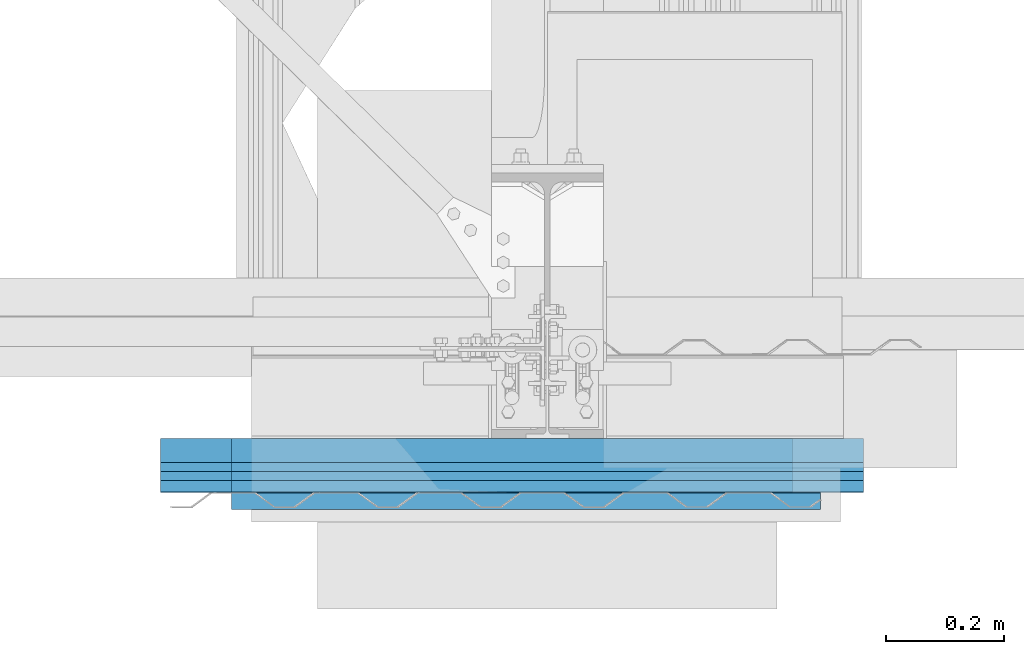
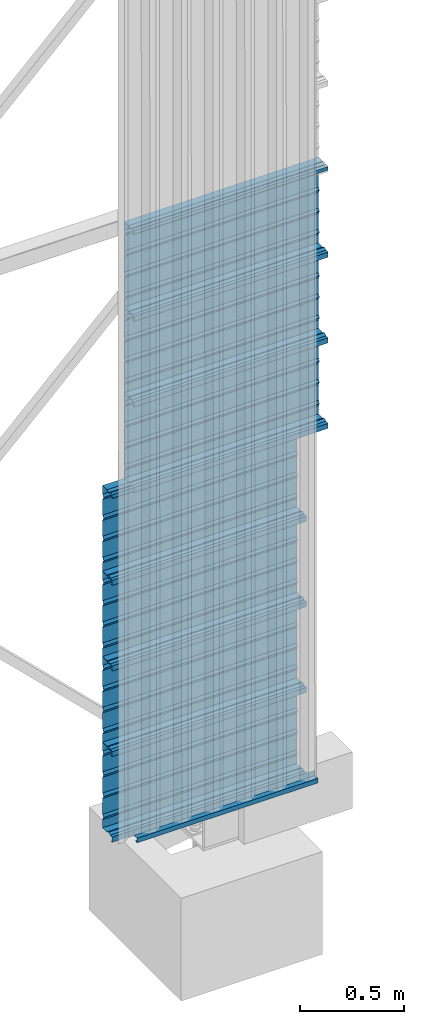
# One storey, part 4 of 21: 8 beams.
"""IFC2X3 building model written with IfcOpenShell, lengths in millimetres."""

from ifc_helpers import new_model, si_unit, frame, origin_with_axes, place, context, project, spatial, faceted_brep, material, type_object, element, save


model = new_model("IFC2X3")

# Units and contexts
model_context_1 = context("Model", 3, precision=1e-05, world=origin_with_axes(), identifier="Body")
model_context_2 = context("Model", 3, precision=1e-05, world=origin_with_axes())
ifc_project = project(units=[si_unit("LENGTHUNIT", "METRE", prefix="MILLI"), si_unit("AREAUNIT", "SQUARE_METRE"), si_unit("VOLUMEUNIT", "CUBIC_METRE"), si_unit("MASSUNIT", "GRAM", prefix="KILO"), si_unit("TIMEUNIT", "SECOND"), si_unit("PLANEANGLEUNIT", "RADIAN"), si_unit("SOLIDANGLEUNIT", "STERADIAN"), si_unit("THERMODYNAMICTEMPERATUREUNIT", "DEGREE_CELSIUS"), si_unit("LUMINOUSINTENSITYUNIT", "LUMEN")], contexts=[model_context_1, model_context_2])

# Site, building, storey
site_placement = place(None, origin_with_axes())
site = spatial("IfcSite", under=ifc_project, at=site_placement, Name="Undefined", CompositionType="ELEMENT")
building_placement = place(site_placement, origin_with_axes())
building = spatial("IfcBuilding", under=site, at=building_placement, Name="Undefined", CompositionType="ELEMENT")
storey_placement = place(building_placement, origin_with_axes())
storey = spatial("IfcBuildingStorey", under=building, at=storey_placement, Name="Undefined", CompositionType="ELEMENT")

# Beams
ifc_material = material(Name="STEEL/S235JR")
beam_type_1 = type_object("IfcBeamType", Name="0.6*98.3", PredefinedType="NOTDEFINED")
beam_1_placement = place(storey_placement, frame((-36.5, -317.21933, 30.997056), z_axis=(-1.0, 0.0, 4.8148249e-35), x_axis=(1.2899234e-13, 3.1900003e-05, -1.0)))
element("IfcBeam", 1, at=beam_1_placement, inside=storey, type_object=beam_type_1, material=ifc_material, Name="bavette", ObjectType="0.6*98.3", context=model_context_1, shape_type="Brep", body=[
    faceted_brep([(-1.1373658e-10, -0.315, -500.0), (1.1384316e-10, -0.315, 500.0), (1.1374368e-10, 0.315, 500.0), (-1.1383605e-10, 0.315, -500.0), (31.373844, 0.315, 500.0), (31.373844, 0.315, -500.0), (32.003868, -0.315, 500.0), (32.003868, -0.315, -500.0), (31.372757, 28.416443, 500.0), (31.372757, 28.416443, -500.0), (32.002781, 27.786443, 500.0), (32.002781, 27.786443, -500.0), (57.809042, 28.416443, 500.0), (57.809042, 28.416443, -500.0), (57.002781, 27.786443, 500.0), (57.002781, 27.786443, -500.0), (54.112692, 13.583386, 500.0), (54.112692, 13.583386, -500.0), (53.501387, 13.735721, 500.0), (53.501387, 13.735721, -500.0)], [[[0, 1, 2, 3]], [[3, 2, 4, 5]], [[2, 1, 6, 4]], [[1, 0, 7, 6]], [[0, 3, 5, 7]], [[5, 4, 8, 9]], [[4, 6, 10, 8]], [[6, 7, 11, 10]], [[7, 5, 9, 11]], [[9, 8, 12, 13]], [[8, 10, 14, 12]], [[10, 11, 15, 14]], [[11, 9, 13, 15]], [[13, 12, 16, 17]], [[12, 14, 18, 16]], [[14, 15, 19, 18]], [[15, 13, 17, 19]], [[18, 19, 17, 16]]]),
])
beam_type_2 = type_object("IfcBeamType", Name="ARCLAD_FPB_MURESCO_1.500.90_BS_75", PredefinedType="NOTDEFINED")
beam_2_placement = place(storey_placement, frame((-656.49991, -270.9088, 279.85113), z_axis=(4.4408925e-19, 1.0, 3.1900003e-05), x_axis=(1.0, 0.0, 0.0)))
element("IfcBeam", 2, at=beam_2_placement, inside=storey, type_object=beam_type_2, material=ifc_material, Name="bac", ObjectType="ARCLAD_FPB_MURESCO_1.500.90_BS_75", context=model_context_1, shape_type="Brep", body=[
    faceted_brep([(0.0, 278.0, -36.0), (0.0, 278.0, -45.0), (1073.0, 278.0, -45.0), (1073.0, 278.0, -36.0), (0.0, 250.0, -45.0), (1073.0, 250.0, -45.0), (0.0, 250.0, -26.110001), (1073.0, 250.0, -26.110001), (0.0, 242.17, -10.67), (1073.0, 242.17, -10.67), (0.0, 250.0, 4.7800002), (1073.0, 250.0, 4.7800002), (0.0, 250.0, 46.0), (1073.0, 250.0, 46.0), (0.0, 200.44, 46.0), (1073.0, 200.44, 46.0), (0.0, 185.0, 38.169998), (1073.0, 185.0, 38.169998), (0.0, 169.56, 46.0), (1073.0, 169.56, 46.0), (0.0, 77.110001, 46.0), (1073.0, 77.110001, 46.0), (0.0, 61.669998, 38.169998), (1073.0, 61.669998, 38.169998), (0.0, 46.220001, 46.0), (1073.0, 46.220001, 46.0), (0.0, -46.220001, 46.0), (1073.0, -46.220001, 46.0), (0.0, -61.669998, 38.169998), (1073.0, -61.669998, 38.169998), (0.0, -77.110001, 46.0), (1073.0, -77.110001, 46.0), (0.0, -169.56, 46.0), (1073.0, -169.56, 46.0), (0.0, -185.0, 38.169998), (1073.0, -185.0, 38.169998), (0.0, -200.44, 46.0), (1073.0, -200.44, 46.0), (0.0, -250.0, 46.0), (1073.0, -250.0, 46.0), (0.0, -250.0, 4.7800002), (1073.0, -250.0, 4.7800002), (0.0, -242.17, -10.67), (1073.0, -242.17, -10.67), (0.0, -250.0, -26.110001), (1073.0, -250.0, -26.110001), (0.0, -250.0, -45.0), (1073.0, -250.0, -45.0), (0.0, -230.0, -45.0), (1073.0, -230.0, -45.0), (0.0, -225.35001, -41.540001), (1073.0, -225.35001, -41.540001), (0.0, -225.95, -40.740002), (1073.0, -225.95, -40.740002), (0.0, -230.33, -44.0), (1073.0, -230.33, -44.0), (0.0, -249.0, -44.0), (1073.0, -249.0, -44.0), (0.0, -249.0, -26.35), (1073.0, -249.0, -26.35), (0.0, -241.05, -10.67), (1073.0, -241.05, -10.67), (0.0, -249.0, 5.02), (1073.0, -249.0, 5.02), (0.0, -249.0, 45.0), (1073.0, -249.0, 45.0), (0.0, -200.67999, 45.0), (1073.0, -200.67999, 45.0), (0.0, -185.0, 37.049999), (1073.0, -185.0, 37.049999), (0.0, -169.32001, 45.0), (1073.0, -169.32001, 45.0), (0.0, -77.349998, 45.0), (1073.0, -77.349998, 45.0), (0.0, -61.669998, 37.049999), (1073.0, -61.669998, 37.049999), (0.0, -45.98, 45.0), (1073.0, -45.98, 45.0), (0.0, 45.98, 45.0), (1073.0, 45.98, 45.0), (0.0, 61.669998, 37.049999), (1073.0, 61.669998, 37.049999), (0.0, 77.349998, 45.0), (1073.0, 77.349998, 45.0), (0.0, 169.32001, 45.0), (1073.0, 169.32001, 45.0), (0.0, 185.0, 37.049999), (1073.0, 185.0, 37.049999), (0.0, 200.67999, 45.0), (1073.0, 200.67999, 45.0), (0.0, 249.0, 45.0), (1073.0, 249.0, 45.0), (0.0, 249.0, 5.02), (1073.0, 249.0, 5.02), (0.0, 241.05, -10.67), (1073.0, 241.05, -10.67), (0.0, 249.0, -26.35), (1073.0, 249.0, -26.35), (0.0, 249.0, -46.0), (1073.0, 249.0, -46.0), (0.0, 279.0, -46.0), (1073.0, 279.0, -46.0), (0.0, 279.0, -36.0), (1073.0, 279.0, -36.0)], [[[0, 1, 2, 3]], [[1, 4, 5, 2]], [[4, 6, 7, 5]], [[6, 8, 9, 7]], [[8, 10, 11, 9]], [[10, 12, 13, 11]], [[12, 14, 15, 13]], [[14, 16, 17, 15]], [[16, 18, 19, 17]], [[18, 20, 21, 19]], [[20, 22, 23, 21]], [[22, 24, 25, 23]], [[24, 26, 27, 25]], [[26, 28, 29, 27]], [[28, 30, 31, 29]], [[30, 32, 33, 31]], [[32, 34, 35, 33]], [[34, 36, 37, 35]], [[36, 38, 39, 37]], [[38, 40, 41, 39]], [[40, 42, 43, 41]], [[42, 44, 45, 43]], [[44, 46, 47, 45]], [[46, 48, 49, 47]], [[48, 50, 51, 49]], [[50, 52, 53, 51]], [[52, 54, 55, 53]], [[54, 56, 57, 55]], [[56, 58, 59, 57]], [[58, 60, 61, 59]], [[60, 62, 63, 61]], [[62, 64, 65, 63]], [[64, 66, 67, 65]], [[66, 68, 69, 67]], [[68, 70, 71, 69]], [[70, 72, 73, 71]], [[72, 74, 75, 73]], [[74, 76, 77, 75]], [[76, 78, 79, 77]], [[78, 80, 81, 79]], [[80, 82, 83, 81]], [[82, 84, 85, 83]], [[84, 86, 87, 85]], [[86, 88, 89, 87]], [[88, 90, 91, 89]], [[90, 92, 93, 91]], [[92, 94, 95, 93]], [[94, 96, 97, 95]], [[96, 98, 99, 97]], [[98, 100, 101, 99]], [[100, 102, 103, 101]], [[102, 0, 3, 103]], [[5, 7, 9, 11, 13, 15, 17, 19, 21, 23, 25, 27, 29, 31, 33, 35, 37, 39, 41, 43, 45, 47, 49, 51, 53, 55, 57, 59, 61, 63, 65, 67, 69, 71, 73, 75, 77, 79, 81, 83, 85, 87, 89, 91, 93, 95, 97, 99, 101, 103, 3, 2]], [[102, 100, 98, 96, 94, 92, 90, 88, 86, 84, 82, 80, 78, 76, 74, 72, 70, 68, 66, 64, 62, 60, 58, 56, 54, 52, 50, 48, 46, 44, 42, 40, 38, 36, 34, 32, 30, 28, 26, 24, 22, 20, 18, 16, 14, 12, 10, 8, 6, 4, 1, 0]]]),
])
beam_3_placement = place(storey_placement, frame((-656.49991, -270.9088, 779.85113), z_axis=(4.4408925e-19, 1.0, 3.1900003e-05), x_axis=(1.0, 0.0, 0.0)))
element("IfcBeam", 3, at=beam_3_placement, inside=storey, type_object=beam_type_2, material=ifc_material, Name="bac", ObjectType="ARCLAD_FPB_MURESCO_1.500.90_BS_75", context=model_context_1, shape_type="Brep", body=[
    faceted_brep([(0.0, 278.0, -36.0), (0.0, 278.0, -45.0), (1073.0, 278.0, -45.0), (1073.0, 278.0, -36.0), (0.0, 250.0, -45.0), (1073.0, 250.0, -45.0), (0.0, 250.0, -26.110001), (1073.0, 250.0, -26.110001), (0.0, 242.17, -10.67), (1073.0, 242.17, -10.67), (0.0, 250.0, 4.7800002), (1073.0, 250.0, 4.7800002), (0.0, 250.0, 46.0), (1073.0, 250.0, 46.0), (0.0, 200.44, 46.0), (1073.0, 200.44, 46.0), (0.0, 185.0, 38.169998), (1073.0, 185.0, 38.169998), (0.0, 169.56, 46.0), (1073.0, 169.56, 46.0), (0.0, 77.110001, 46.0), (1073.0, 77.110001, 46.0), (0.0, 61.669998, 38.169998), (1073.0, 61.669998, 38.169998), (0.0, 46.220001, 46.0), (1073.0, 46.220001, 46.0), (0.0, -46.220001, 46.0), (1073.0, -46.220001, 46.0), (0.0, -61.669998, 38.169998), (1073.0, -61.669998, 38.169998), (0.0, -77.110001, 46.0), (1073.0, -77.110001, 46.0), (0.0, -169.56, 46.0), (1073.0, -169.56, 46.0), (0.0, -185.0, 38.169998), (1073.0, -185.0, 38.169998), (0.0, -200.44, 46.0), (1073.0, -200.44, 46.0), (0.0, -250.0, 46.0), (1073.0, -250.0, 46.0), (0.0, -250.0, 4.7800002), (1073.0, -250.0, 4.7800002), (0.0, -242.17, -10.67), (1073.0, -242.17, -10.67), (0.0, -250.0, -26.110001), (1073.0, -250.0, -26.110001), (0.0, -250.0, -45.0), (1073.0, -250.0, -45.0), (0.0, -230.0, -45.0), (1073.0, -230.0, -45.0), (0.0, -225.35001, -41.540001), (1073.0, -225.35001, -41.540001), (0.0, -225.95, -40.740002), (1073.0, -225.95, -40.740002), (0.0, -230.33, -44.0), (1073.0, -230.33, -44.0), (0.0, -249.0, -44.0), (1073.0, -249.0, -44.0), (0.0, -249.0, -26.35), (1073.0, -249.0, -26.35), (0.0, -241.05, -10.67), (1073.0, -241.05, -10.67), (0.0, -249.0, 5.02), (1073.0, -249.0, 5.02), (0.0, -249.0, 45.0), (1073.0, -249.0, 45.0), (0.0, -200.67999, 45.0), (1073.0, -200.67999, 45.0), (0.0, -185.0, 37.049999), (1073.0, -185.0, 37.049999), (0.0, -169.32001, 45.0), (1073.0, -169.32001, 45.0), (0.0, -77.349998, 45.0), (1073.0, -77.349998, 45.0), (0.0, -61.669998, 37.049999), (1073.0, -61.669998, 37.049999), (0.0, -45.98, 45.0), (1073.0, -45.98, 45.0), (0.0, 45.98, 45.0), (1073.0, 45.98, 45.0), (0.0, 61.669998, 37.049999), (1073.0, 61.669998, 37.049999), (0.0, 77.349998, 45.0), (1073.0, 77.349998, 45.0), (0.0, 169.32001, 45.0), (1073.0, 169.32001, 45.0), (0.0, 185.0, 37.049999), (1073.0, 185.0, 37.049999), (0.0, 200.67999, 45.0), (1073.0, 200.67999, 45.0), (0.0, 249.0, 45.0), (1073.0, 249.0, 45.0), (0.0, 249.0, 5.02), (1073.0, 249.0, 5.02), (0.0, 241.05, -10.67), (1073.0, 241.05, -10.67), (0.0, 249.0, -26.35), (1073.0, 249.0, -26.35), (0.0, 249.0, -46.0), (1073.0, 249.0, -46.0), (0.0, 279.0, -46.0), (1073.0, 279.0, -46.0), (0.0, 279.0, -36.0), (1073.0, 279.0, -36.0)], [[[0, 1, 2, 3]], [[1, 4, 5, 2]], [[4, 6, 7, 5]], [[6, 8, 9, 7]], [[8, 10, 11, 9]], [[10, 12, 13, 11]], [[12, 14, 15, 13]], [[14, 16, 17, 15]], [[16, 18, 19, 17]], [[18, 20, 21, 19]], [[20, 22, 23, 21]], [[22, 24, 25, 23]], [[24, 26, 27, 25]], [[26, 28, 29, 27]], [[28, 30, 31, 29]], [[30, 32, 33, 31]], [[32, 34, 35, 33]], [[34, 36, 37, 35]], [[36, 38, 39, 37]], [[38, 40, 41, 39]], [[40, 42, 43, 41]], [[42, 44, 45, 43]], [[44, 46, 47, 45]], [[46, 48, 49, 47]], [[48, 50, 51, 49]], [[50, 52, 53, 51]], [[52, 54, 55, 53]], [[54, 56, 57, 55]], [[56, 58, 59, 57]], [[58, 60, 61, 59]], [[60, 62, 63, 61]], [[62, 64, 65, 63]], [[64, 66, 67, 65]], [[66, 68, 69, 67]], [[68, 70, 71, 69]], [[70, 72, 73, 71]], [[72, 74, 75, 73]], [[74, 76, 77, 75]], [[76, 78, 79, 77]], [[78, 80, 81, 79]], [[80, 82, 83, 81]], [[82, 84, 85, 83]], [[84, 86, 87, 85]], [[86, 88, 89, 87]], [[88, 90, 91, 89]], [[90, 92, 93, 91]], [[92, 94, 95, 93]], [[94, 96, 97, 95]], [[96, 98, 99, 97]], [[98, 100, 101, 99]], [[100, 102, 103, 101]], [[102, 0, 3, 103]], [[5, 7, 9, 11, 13, 15, 17, 19, 21, 23, 25, 27, 29, 31, 33, 35, 37, 39, 41, 43, 45, 47, 49, 51, 53, 55, 57, 59, 61, 63, 65, 67, 69, 71, 73, 75, 77, 79, 81, 83, 85, 87, 89, 91, 93, 95, 97, 99, 101, 103, 3, 2]], [[102, 100, 98, 96, 94, 92, 90, 88, 86, 84, 82, 80, 78, 76, 74, 72, 70, 68, 66, 64, 62, 60, 58, 56, 54, 52, 50, 48, 46, 44, 42, 40, 38, 36, 34, 32, 30, 28, 26, 24, 22, 20, 18, 16, 14, 12, 10, 8, 6, 4, 1, 0]]]),
])
beam_4_placement = place(storey_placement, frame((-656.49991, -270.9088, 1279.8511), z_axis=(4.4408925e-19, 1.0, 3.1900003e-05), x_axis=(1.0, 0.0, 0.0)))
element("IfcBeam", 4, at=beam_4_placement, inside=storey, type_object=beam_type_2, material=ifc_material, Name="bac", ObjectType="ARCLAD_FPB_MURESCO_1.500.90_BS_75", context=model_context_1, shape_type="Brep", body=[
    faceted_brep([(0.0, 278.0, -36.0), (0.0, 278.0, -45.0), (1073.0, 278.0, -45.0), (1073.0, 278.0, -36.0), (0.0, 250.0, -45.0), (1073.0, 250.0, -45.0), (0.0, 250.0, -26.110001), (1073.0, 250.0, -26.110001), (0.0, 242.17, -10.67), (1073.0, 242.17, -10.67), (0.0, 250.0, 4.7800002), (1073.0, 250.0, 4.7800002), (0.0, 250.0, 46.0), (1073.0, 250.0, 46.0), (0.0, 200.44, 46.0), (1073.0, 200.44, 46.0), (0.0, 185.0, 38.169998), (1073.0, 185.0, 38.169998), (0.0, 169.56, 46.0), (1073.0, 169.56, 46.0), (0.0, 77.110001, 46.0), (1073.0, 77.110001, 46.0), (0.0, 61.669998, 38.169998), (1073.0, 61.669998, 38.169998), (0.0, 46.220001, 46.0), (1073.0, 46.220001, 46.0), (0.0, -46.220001, 46.0), (1073.0, -46.220001, 46.0), (0.0, -61.669998, 38.169998), (1073.0, -61.669998, 38.169998), (0.0, -77.110001, 46.0), (1073.0, -77.110001, 46.0), (0.0, -169.56, 46.0), (1073.0, -169.56, 46.0), (0.0, -185.0, 38.169998), (1073.0, -185.0, 38.169998), (0.0, -200.44, 46.0), (1073.0, -200.44, 46.0), (0.0, -250.0, 46.0), (1073.0, -250.0, 46.0), (0.0, -250.0, 4.7800002), (1073.0, -250.0, 4.7800002), (0.0, -242.17, -10.67), (1073.0, -242.17, -10.67), (0.0, -250.0, -26.110001), (1073.0, -250.0, -26.110001), (0.0, -250.0, -45.0), (1073.0, -250.0, -45.0), (0.0, -230.0, -45.0), (1073.0, -230.0, -45.0), (0.0, -225.35001, -41.540001), (1073.0, -225.35001, -41.540001), (0.0, -225.95, -40.740002), (1073.0, -225.95, -40.740002), (0.0, -230.33, -44.0), (1073.0, -230.33, -44.0), (0.0, -249.0, -44.0), (1073.0, -249.0, -44.0), (0.0, -249.0, -26.35), (1073.0, -249.0, -26.35), (0.0, -241.05, -10.67), (1073.0, -241.05, -10.67), (0.0, -249.0, 5.02), (1073.0, -249.0, 5.02), (0.0, -249.0, 45.0), (1073.0, -249.0, 45.0), (0.0, -200.67999, 45.0), (1073.0, -200.67999, 45.0), (0.0, -185.0, 37.049999), (1073.0, -185.0, 37.049999), (0.0, -169.32001, 45.0), (1073.0, -169.32001, 45.0), (0.0, -77.349998, 45.0), (1073.0, -77.349998, 45.0), (0.0, -61.669998, 37.049999), (1073.0, -61.669998, 37.049999), (0.0, -45.98, 45.0), (1073.0, -45.98, 45.0), (0.0, 45.98, 45.0), (1073.0, 45.98, 45.0), (0.0, 61.669998, 37.049999), (1073.0, 61.669998, 37.049999), (0.0, 77.349998, 45.0), (1073.0, 77.349998, 45.0), (0.0, 169.32001, 45.0), (1073.0, 169.32001, 45.0), (0.0, 185.0, 37.049999), (1073.0, 185.0, 37.049999), (0.0, 200.67999, 45.0), (1073.0, 200.67999, 45.0), (0.0, 249.0, 45.0), (1073.0, 249.0, 45.0), (0.0, 249.0, 5.02), (1073.0, 249.0, 5.02), (0.0, 241.05, -10.67), (1073.0, 241.05, -10.67), (0.0, 249.0, -26.35), (1073.0, 249.0, -26.35), (0.0, 249.0, -46.0), (1073.0, 249.0, -46.0), (0.0, 279.0, -46.0), (1073.0, 279.0, -46.0), (0.0, 279.0, -36.0), (1073.0, 279.0, -36.0)], [[[0, 1, 2, 3]], [[1, 4, 5, 2]], [[4, 6, 7, 5]], [[6, 8, 9, 7]], [[8, 10, 11, 9]], [[10, 12, 13, 11]], [[12, 14, 15, 13]], [[14, 16, 17, 15]], [[16, 18, 19, 17]], [[18, 20, 21, 19]], [[20, 22, 23, 21]], [[22, 24, 25, 23]], [[24, 26, 27, 25]], [[26, 28, 29, 27]], [[28, 30, 31, 29]], [[30, 32, 33, 31]], [[32, 34, 35, 33]], [[34, 36, 37, 35]], [[36, 38, 39, 37]], [[38, 40, 41, 39]], [[40, 42, 43, 41]], [[42, 44, 45, 43]], [[44, 46, 47, 45]], [[46, 48, 49, 47]], [[48, 50, 51, 49]], [[50, 52, 53, 51]], [[52, 54, 55, 53]], [[54, 56, 57, 55]], [[56, 58, 59, 57]], [[58, 60, 61, 59]], [[60, 62, 63, 61]], [[62, 64, 65, 63]], [[64, 66, 67, 65]], [[66, 68, 69, 67]], [[68, 70, 71, 69]], [[70, 72, 73, 71]], [[72, 74, 75, 73]], [[74, 76, 77, 75]], [[76, 78, 79, 77]], [[78, 80, 81, 79]], [[80, 82, 83, 81]], [[82, 84, 85, 83]], [[84, 86, 87, 85]], [[86, 88, 89, 87]], [[88, 90, 91, 89]], [[90, 92, 93, 91]], [[92, 94, 95, 93]], [[94, 96, 97, 95]], [[96, 98, 99, 97]], [[98, 100, 101, 99]], [[100, 102, 103, 101]], [[102, 0, 3, 103]], [[5, 7, 9, 11, 13, 15, 17, 19, 21, 23, 25, 27, 29, 31, 33, 35, 37, 39, 41, 43, 45, 47, 49, 51, 53, 55, 57, 59, 61, 63, 65, 67, 69, 71, 73, 75, 77, 79, 81, 83, 85, 87, 89, 91, 93, 95, 97, 99, 101, 103, 3, 2]], [[102, 100, 98, 96, 94, 92, 90, 88, 86, 84, 82, 80, 78, 76, 74, 72, 70, 68, 66, 64, 62, 60, 58, 56, 54, 52, 50, 48, 46, 44, 42, 40, 38, 36, 34, 32, 30, 28, 26, 24, 22, 20, 18, 16, 14, 12, 10, 8, 6, 4, 1, 0]]]),
])
beam_5_placement = place(storey_placement, frame((-656.49991, -270.9088, 1779.8511), z_axis=(4.4408925e-19, 1.0, 3.1900003e-05), x_axis=(1.0, 0.0, 0.0)))
element("IfcBeam", 5, at=beam_5_placement, inside=storey, type_object=beam_type_2, material=ifc_material, Name="bac", ObjectType="ARCLAD_FPB_MURESCO_1.500.90_BS_75", context=model_context_1, shape_type="Brep", body=[
    faceted_brep([(0.0, 278.0, -36.0), (0.0, 278.0, -45.0), (1073.0, 278.0, -45.0), (1073.0, 278.0, -36.0), (0.0, 250.0, -45.0), (1073.0, 250.0, -45.0), (0.0, 250.0, -26.110001), (1073.0, 250.0, -26.110001), (0.0, 242.17, -10.67), (1073.0, 242.17, -10.67), (0.0, 250.0, 4.7800002), (1073.0, 250.0, 4.7800002), (0.0, 250.0, 46.0), (1073.0, 250.0, 46.0), (0.0, 200.44, 46.0), (1073.0, 200.44, 46.0), (0.0, 185.0, 38.169998), (1073.0, 185.0, 38.169998), (0.0, 169.56, 46.0), (1073.0, 169.56, 46.0), (0.0, 77.110001, 46.0), (1073.0, 77.110001, 46.0), (0.0, 61.669998, 38.169998), (1073.0, 61.669998, 38.169998), (0.0, 46.220001, 46.0), (1073.0, 46.220001, 46.0), (0.0, -46.220001, 46.0), (1073.0, -46.220001, 46.0), (0.0, -61.669998, 38.169998), (1073.0, -61.669998, 38.169998), (0.0, -77.110001, 46.0), (1073.0, -77.110001, 46.0), (0.0, -169.56, 46.0), (1073.0, -169.56, 46.0), (0.0, -185.0, 38.169998), (1073.0, -185.0, 38.169998), (0.0, -200.44, 46.0), (1073.0, -200.44, 46.0), (0.0, -250.0, 46.0), (1073.0, -250.0, 46.0), (0.0, -250.0, 4.7800002), (1073.0, -250.0, 4.7800002), (0.0, -242.17, -10.67), (1073.0, -242.17, -10.67), (0.0, -250.0, -26.110001), (1073.0, -250.0, -26.110001), (0.0, -250.0, -45.0), (1073.0, -250.0, -45.0), (0.0, -230.0, -45.0), (1073.0, -230.0, -45.0), (0.0, -225.35001, -41.540001), (1073.0, -225.35001, -41.540001), (0.0, -225.95, -40.740002), (1073.0, -225.95, -40.740002), (0.0, -230.33, -44.0), (1073.0, -230.33, -44.0), (0.0, -249.0, -44.0), (1073.0, -249.0, -44.0), (0.0, -249.0, -26.35), (1073.0, -249.0, -26.35), (0.0, -241.05, -10.67), (1073.0, -241.05, -10.67), (0.0, -249.0, 5.02), (1073.0, -249.0, 5.02), (0.0, -249.0, 45.0), (1073.0, -249.0, 45.0), (0.0, -200.67999, 45.0), (1073.0, -200.67999, 45.0), (0.0, -185.0, 37.049999), (1073.0, -185.0, 37.049999), (0.0, -169.32001, 45.0), (1073.0, -169.32001, 45.0), (0.0, -77.349998, 45.0), (1073.0, -77.349998, 45.0), (0.0, -61.669998, 37.049999), (1073.0, -61.669998, 37.049999), (0.0, -45.98, 45.0), (1073.0, -45.98, 45.0), (0.0, 45.98, 45.0), (1073.0, 45.98, 45.0), (0.0, 61.669998, 37.049999), (1073.0, 61.669998, 37.049999), (0.0, 77.349998, 45.0), (1073.0, 77.349998, 45.0), (0.0, 169.32001, 45.0), (1073.0, 169.32001, 45.0), (0.0, 185.0, 37.049999), (1073.0, 185.0, 37.049999), (0.0, 200.67999, 45.0), (1073.0, 200.67999, 45.0), (0.0, 249.0, 45.0), (1073.0, 249.0, 45.0), (0.0, 249.0, 5.02), (1073.0, 249.0, 5.02), (0.0, 241.05, -10.67), (1073.0, 241.05, -10.67), (0.0, 249.0, -26.35), (1073.0, 249.0, -26.35), (0.0, 249.0, -46.0), (1073.0, 249.0, -46.0), (0.0, 279.0, -46.0), (1073.0, 279.0, -46.0), (0.0, 279.0, -36.0), (1073.0, 279.0, -36.0)], [[[0, 1, 2, 3]], [[1, 4, 5, 2]], [[4, 6, 7, 5]], [[6, 8, 9, 7]], [[8, 10, 11, 9]], [[10, 12, 13, 11]], [[12, 14, 15, 13]], [[14, 16, 17, 15]], [[16, 18, 19, 17]], [[18, 20, 21, 19]], [[20, 22, 23, 21]], [[22, 24, 25, 23]], [[24, 26, 27, 25]], [[26, 28, 29, 27]], [[28, 30, 31, 29]], [[30, 32, 33, 31]], [[32, 34, 35, 33]], [[34, 36, 37, 35]], [[36, 38, 39, 37]], [[38, 40, 41, 39]], [[40, 42, 43, 41]], [[42, 44, 45, 43]], [[44, 46, 47, 45]], [[46, 48, 49, 47]], [[48, 50, 51, 49]], [[50, 52, 53, 51]], [[52, 54, 55, 53]], [[54, 56, 57, 55]], [[56, 58, 59, 57]], [[58, 60, 61, 59]], [[60, 62, 63, 61]], [[62, 64, 65, 63]], [[64, 66, 67, 65]], [[66, 68, 69, 67]], [[68, 70, 71, 69]], [[70, 72, 73, 71]], [[72, 74, 75, 73]], [[74, 76, 77, 75]], [[76, 78, 79, 77]], [[78, 80, 81, 79]], [[80, 82, 83, 81]], [[82, 84, 85, 83]], [[84, 86, 87, 85]], [[86, 88, 89, 87]], [[88, 90, 91, 89]], [[90, 92, 93, 91]], [[92, 94, 95, 93]], [[94, 96, 97, 95]], [[96, 98, 99, 97]], [[98, 100, 101, 99]], [[100, 102, 103, 101]], [[102, 0, 3, 103]], [[5, 7, 9, 11, 13, 15, 17, 19, 21, 23, 25, 27, 29, 31, 33, 35, 37, 39, 41, 43, 45, 47, 49, 51, 53, 55, 57, 59, 61, 63, 65, 67, 69, 71, 73, 75, 77, 79, 81, 83, 85, 87, 89, 91, 93, 95, 97, 99, 101, 103, 3, 2]], [[102, 100, 98, 96, 94, 92, 90, 88, 86, 84, 82, 80, 78, 76, 74, 72, 70, 68, 66, 64, 62, 60, 58, 56, 54, 52, 50, 48, 46, 44, 42, 40, 38, 36, 34, 32, 30, 28, 26, 24, 22, 20, 18, 16, 14, 12, 10, 8, 6, 4, 1, 0]]]),
])
beam_6_placement = place(storey_placement, frame((-536.5, -270.91227, 2279.9985), z_axis=(4.4408925e-19, 1.0, 3.1900003e-05), x_axis=(1.0, 0.0, 0.0)))
element("IfcBeam", 6, at=beam_6_placement, inside=storey, type_object=beam_type_2, material=ifc_material, Name="bac", ObjectType="ARCLAD_FPB_MURESCO_1.500.90_BS_75", context=model_context_1, shape_type="Brep", body=[
    faceted_brep([(0.0, 278.0, -36.0), (0.0, 278.0, -45.0), (1073.0, 278.0, -45.0), (1073.0, 278.0, -36.0), (0.0, 250.0, -45.0), (1073.0, 250.0, -45.0), (0.0, 250.0, -26.110001), (1073.0, 250.0, -26.110001), (0.0, 242.17, -10.67), (1073.0, 242.17, -10.67), (0.0, 250.0, 4.7800002), (1073.0, 250.0, 4.7800002), (0.0, 250.0, 46.0), (1073.0, 250.0, 46.0), (0.0, 200.44, 46.0), (1073.0, 200.44, 46.0), (0.0, 185.0, 38.169998), (1073.0, 185.0, 38.169998), (0.0, 169.56, 46.0), (1073.0, 169.56, 46.0), (0.0, 77.110001, 46.0), (1073.0, 77.110001, 46.0), (0.0, 61.669998, 38.169998), (1073.0, 61.669998, 38.169998), (0.0, 46.220001, 46.0), (1073.0, 46.220001, 46.0), (0.0, -46.220001, 46.0), (1073.0, -46.220001, 46.0), (0.0, -61.669998, 38.169998), (1073.0, -61.669998, 38.169998), (0.0, -77.110001, 46.0), (1073.0, -77.110001, 46.0), (0.0, -169.56, 46.0), (1073.0, -169.56, 46.0), (0.0, -185.0, 38.169998), (1073.0, -185.0, 38.169998), (0.0, -200.44, 46.0), (1073.0, -200.44, 46.0), (0.0, -250.0, 46.0), (1073.0, -250.0, 46.0), (0.0, -250.0, 4.7800002), (1073.0, -250.0, 4.7800002), (0.0, -242.17, -10.67), (1073.0, -242.17, -10.67), (0.0, -250.0, -26.110001), (1073.0, -250.0, -26.110001), (0.0, -250.0, -45.0), (1073.0, -250.0, -45.0), (0.0, -230.0, -45.0), (1073.0, -230.0, -45.0), (0.0, -225.35001, -41.540001), (1073.0, -225.35001, -41.540001), (0.0, -225.95, -40.740002), (1073.0, -225.95, -40.740002), (0.0, -230.33, -44.0), (1073.0, -230.33, -44.0), (0.0, -249.0, -44.0), (1073.0, -249.0, -44.0), (0.0, -249.0, -26.35), (1073.0, -249.0, -26.35), (0.0, -241.05, -10.67), (1073.0, -241.05, -10.67), (0.0, -249.0, 5.02), (1073.0, -249.0, 5.02), (0.0, -249.0, 45.0), (1073.0, -249.0, 45.0), (0.0, -200.67999, 45.0), (1073.0, -200.67999, 45.0), (0.0, -185.0, 37.049999), (1073.0, -185.0, 37.049999), (0.0, -169.32001, 45.0), (1073.0, -169.32001, 45.0), (0.0, -77.349998, 45.0), (1073.0, -77.349998, 45.0), (0.0, -61.669998, 37.049999), (1073.0, -61.669998, 37.049999), (0.0, -45.98, 45.0), (1073.0, -45.98, 45.0), (0.0, 45.98, 45.0), (1073.0, 45.98, 45.0), (0.0, 61.669998, 37.049999), (1073.0, 61.669998, 37.049999), (0.0, 77.349998, 45.0), (1073.0, 77.349998, 45.0), (0.0, 169.32001, 45.0), (1073.0, 169.32001, 45.0), (0.0, 185.0, 37.049999), (1073.0, 185.0, 37.049999), (0.0, 200.67999, 45.0), (1073.0, 200.67999, 45.0), (0.0, 249.0, 45.0), (1073.0, 249.0, 45.0), (0.0, 249.0, 5.02), (1073.0, 249.0, 5.02), (0.0, 241.05, -10.67), (1073.0, 241.05, -10.67), (0.0, 249.0, -26.35), (1073.0, 249.0, -26.35), (0.0, 249.0, -46.0), (1073.0, 249.0, -46.0), (0.0, 279.0, -46.0), (1073.0, 279.0, -46.0), (0.0, 279.0, -36.0), (1073.0, 279.0, -36.0)], [[[0, 1, 2, 3]], [[1, 4, 5, 2]], [[4, 6, 7, 5]], [[6, 8, 9, 7]], [[8, 10, 11, 9]], [[10, 12, 13, 11]], [[12, 14, 15, 13]], [[14, 16, 17, 15]], [[16, 18, 19, 17]], [[18, 20, 21, 19]], [[20, 22, 23, 21]], [[22, 24, 25, 23]], [[24, 26, 27, 25]], [[26, 28, 29, 27]], [[28, 30, 31, 29]], [[30, 32, 33, 31]], [[32, 34, 35, 33]], [[34, 36, 37, 35]], [[36, 38, 39, 37]], [[38, 40, 41, 39]], [[40, 42, 43, 41]], [[42, 44, 45, 43]], [[44, 46, 47, 45]], [[46, 48, 49, 47]], [[48, 50, 51, 49]], [[50, 52, 53, 51]], [[52, 54, 55, 53]], [[54, 56, 57, 55]], [[56, 58, 59, 57]], [[58, 60, 61, 59]], [[60, 62, 63, 61]], [[62, 64, 65, 63]], [[64, 66, 67, 65]], [[66, 68, 69, 67]], [[68, 70, 71, 69]], [[70, 72, 73, 71]], [[72, 74, 75, 73]], [[74, 76, 77, 75]], [[76, 78, 79, 77]], [[78, 80, 81, 79]], [[80, 82, 83, 81]], [[82, 84, 85, 83]], [[84, 86, 87, 85]], [[86, 88, 89, 87]], [[88, 90, 91, 89]], [[90, 92, 93, 91]], [[92, 94, 95, 93]], [[94, 96, 97, 95]], [[96, 98, 99, 97]], [[98, 100, 101, 99]], [[100, 102, 103, 101]], [[102, 0, 3, 103]], [[5, 7, 9, 11, 13, 15, 17, 19, 21, 23, 25, 27, 29, 31, 33, 35, 37, 39, 41, 43, 45, 47, 49, 51, 53, 55, 57, 59, 61, 63, 65, 67, 69, 71, 73, 75, 77, 79, 81, 83, 85, 87, 89, 91, 93, 95, 97, 99, 101, 103, 3, 2]], [[102, 100, 98, 96, 94, 92, 90, 88, 86, 84, 82, 80, 78, 76, 74, 72, 70, 68, 66, 64, 62, 60, 58, 56, 54, 52, 50, 48, 46, 44, 42, 40, 38, 36, 34, 32, 30, 28, 26, 24, 22, 20, 18, 16, 14, 12, 10, 8, 6, 4, 1, 0]]]),
])
beam_7_placement = place(storey_placement, frame((-536.5, -270.91227, 3279.9985), z_axis=(4.4408925e-19, 1.0, 3.1900003e-05), x_axis=(1.0, 0.0, 0.0)))
element("IfcBeam", 7, at=beam_7_placement, inside=storey, type_object=beam_type_2, material=ifc_material, Name="bac", ObjectType="ARCLAD_FPB_MURESCO_1.500.90_BS_75", context=model_context_1, shape_type="Brep", body=[
    faceted_brep([(0.0, 278.0, -36.0), (0.0, 278.0, -45.0), (1073.0, 278.0, -45.0), (1073.0, 278.0, -36.0), (0.0, 250.0, -45.0), (1073.0, 250.0, -45.0), (0.0, 250.0, -26.110001), (1073.0, 250.0, -26.110001), (0.0, 242.17, -10.67), (1073.0, 242.17, -10.67), (0.0, 250.0, 4.7800002), (1073.0, 250.0, 4.7800002), (0.0, 250.0, 46.0), (1073.0, 250.0, 46.0), (0.0, 200.44, 46.0), (1073.0, 200.44, 46.0), (0.0, 185.0, 38.169998), (1073.0, 185.0, 38.169998), (0.0, 169.56, 46.0), (1073.0, 169.56, 46.0), (0.0, 77.110001, 46.0), (1073.0, 77.110001, 46.0), (0.0, 61.669998, 38.169998), (1073.0, 61.669998, 38.169998), (0.0, 46.220001, 46.0), (1073.0, 46.220001, 46.0), (0.0, -46.220001, 46.0), (1073.0, -46.220001, 46.0), (0.0, -61.669998, 38.169998), (1073.0, -61.669998, 38.169998), (0.0, -77.110001, 46.0), (1073.0, -77.110001, 46.0), (0.0, -169.56, 46.0), (1073.0, -169.56, 46.0), (0.0, -185.0, 38.169998), (1073.0, -185.0, 38.169998), (0.0, -200.44, 46.0), (1073.0, -200.44, 46.0), (0.0, -250.0, 46.0), (1073.0, -250.0, 46.0), (0.0, -250.0, 4.7800002), (1073.0, -250.0, 4.7800002), (0.0, -242.17, -10.67), (1073.0, -242.17, -10.67), (0.0, -250.0, -26.110001), (1073.0, -250.0, -26.110001), (0.0, -250.0, -45.0), (1073.0, -250.0, -45.0), (0.0, -230.0, -45.0), (1073.0, -230.0, -45.0), (0.0, -225.35001, -41.540001), (1073.0, -225.35001, -41.540001), (0.0, -225.95, -40.740002), (1073.0, -225.95, -40.740002), (0.0, -230.33, -44.0), (1073.0, -230.33, -44.0), (0.0, -249.0, -44.0), (1073.0, -249.0, -44.0), (0.0, -249.0, -26.35), (1073.0, -249.0, -26.35), (0.0, -241.05, -10.67), (1073.0, -241.05, -10.67), (0.0, -249.0, 5.02), (1073.0, -249.0, 5.02), (0.0, -249.0, 45.0), (1073.0, -249.0, 45.0), (0.0, -200.67999, 45.0), (1073.0, -200.67999, 45.0), (0.0, -185.0, 37.049999), (1073.0, -185.0, 37.049999), (0.0, -169.32001, 45.0), (1073.0, -169.32001, 45.0), (0.0, -77.349998, 45.0), (1073.0, -77.349998, 45.0), (0.0, -61.669998, 37.049999), (1073.0, -61.669998, 37.049999), (0.0, -45.98, 45.0), (1073.0, -45.98, 45.0), (0.0, 45.98, 45.0), (1073.0, 45.98, 45.0), (0.0, 61.669998, 37.049999), (1073.0, 61.669998, 37.049999), (0.0, 77.349998, 45.0), (1073.0, 77.349998, 45.0), (0.0, 169.32001, 45.0), (1073.0, 169.32001, 45.0), (0.0, 185.0, 37.049999), (1073.0, 185.0, 37.049999), (0.0, 200.67999, 45.0), (1073.0, 200.67999, 45.0), (0.0, 249.0, 45.0), (1073.0, 249.0, 45.0), (0.0, 249.0, 5.02), (1073.0, 249.0, 5.02), (0.0, 241.05, -10.67), (1073.0, 241.05, -10.67), (0.0, 249.0, -26.35), (1073.0, 249.0, -26.35), (0.0, 249.0, -46.0), (1073.0, 249.0, -46.0), (0.0, 279.0, -46.0), (1073.0, 279.0, -46.0), (0.0, 279.0, -36.0), (1073.0, 279.0, -36.0)], [[[0, 1, 2, 3]], [[1, 4, 5, 2]], [[4, 6, 7, 5]], [[6, 8, 9, 7]], [[8, 10, 11, 9]], [[10, 12, 13, 11]], [[12, 14, 15, 13]], [[14, 16, 17, 15]], [[16, 18, 19, 17]], [[18, 20, 21, 19]], [[20, 22, 23, 21]], [[22, 24, 25, 23]], [[24, 26, 27, 25]], [[26, 28, 29, 27]], [[28, 30, 31, 29]], [[30, 32, 33, 31]], [[32, 34, 35, 33]], [[34, 36, 37, 35]], [[36, 38, 39, 37]], [[38, 40, 41, 39]], [[40, 42, 43, 41]], [[42, 44, 45, 43]], [[44, 46, 47, 45]], [[46, 48, 49, 47]], [[48, 50, 51, 49]], [[50, 52, 53, 51]], [[52, 54, 55, 53]], [[54, 56, 57, 55]], [[56, 58, 59, 57]], [[58, 60, 61, 59]], [[60, 62, 63, 61]], [[62, 64, 65, 63]], [[64, 66, 67, 65]], [[66, 68, 69, 67]], [[68, 70, 71, 69]], [[70, 72, 73, 71]], [[72, 74, 75, 73]], [[74, 76, 77, 75]], [[76, 78, 79, 77]], [[78, 80, 81, 79]], [[80, 82, 83, 81]], [[82, 84, 85, 83]], [[84, 86, 87, 85]], [[86, 88, 89, 87]], [[88, 90, 91, 89]], [[90, 92, 93, 91]], [[92, 94, 95, 93]], [[94, 96, 97, 95]], [[96, 98, 99, 97]], [[98, 100, 101, 99]], [[100, 102, 103, 101]], [[102, 0, 3, 103]], [[5, 7, 9, 11, 13, 15, 17, 19, 21, 23, 25, 27, 29, 31, 33, 35, 37, 39, 41, 43, 45, 47, 49, 51, 53, 55, 57, 59, 61, 63, 65, 67, 69, 71, 73, 75, 77, 79, 81, 83, 85, 87, 89, 91, 93, 95, 97, 99, 101, 103, 3, 2]], [[102, 100, 98, 96, 94, 92, 90, 88, 86, 84, 82, 80, 78, 76, 74, 72, 70, 68, 66, 64, 62, 60, 58, 56, 54, 52, 50, 48, 46, 44, 42, 40, 38, 36, 34, 32, 30, 28, 26, 24, 22, 20, 18, 16, 14, 12, 10, 8, 6, 4, 1, 0]]]),
])
beam_8_placement = place(storey_placement, frame((-536.5, -270.91227, 2779.9985), z_axis=(4.4408925e-19, 1.0, 3.1900003e-05), x_axis=(1.0, 0.0, 0.0)))
element("IfcBeam", 8, at=beam_8_placement, inside=storey, type_object=beam_type_2, material=ifc_material, Name="bac", ObjectType="ARCLAD_FPB_MURESCO_1.500.90_BS_75", context=model_context_1, shape_type="Brep", body=[
    faceted_brep([(0.0, 278.0, -36.0), (0.0, 278.0, -45.0), (1073.0, 278.0, -45.0), (1073.0, 278.0, -36.0), (0.0, 250.0, -45.0), (1073.0, 250.0, -45.0), (0.0, 250.0, -26.110001), (1073.0, 250.0, -26.110001), (0.0, 242.17, -10.67), (1073.0, 242.17, -10.67), (0.0, 250.0, 4.7800002), (1073.0, 250.0, 4.7800002), (0.0, 250.0, 46.0), (1073.0, 250.0, 46.0), (0.0, 200.44, 46.0), (1073.0, 200.44, 46.0), (0.0, 185.0, 38.169998), (1073.0, 185.0, 38.169998), (0.0, 169.56, 46.0), (1073.0, 169.56, 46.0), (0.0, 77.110001, 46.0), (1073.0, 77.110001, 46.0), (0.0, 61.669998, 38.169998), (1073.0, 61.669998, 38.169998), (0.0, 46.220001, 46.0), (1073.0, 46.220001, 46.0), (0.0, -46.220001, 46.0), (1073.0, -46.220001, 46.0), (0.0, -61.669998, 38.169998), (1073.0, -61.669998, 38.169998), (0.0, -77.110001, 46.0), (1073.0, -77.110001, 46.0), (0.0, -169.56, 46.0), (1073.0, -169.56, 46.0), (0.0, -185.0, 38.169998), (1073.0, -185.0, 38.169998), (0.0, -200.44, 46.0), (1073.0, -200.44, 46.0), (0.0, -250.0, 46.0), (1073.0, -250.0, 46.0), (0.0, -250.0, 4.7800002), (1073.0, -250.0, 4.7800002), (0.0, -242.17, -10.67), (1073.0, -242.17, -10.67), (0.0, -250.0, -26.110001), (1073.0, -250.0, -26.110001), (0.0, -250.0, -45.0), (1073.0, -250.0, -45.0), (0.0, -230.0, -45.0), (1073.0, -230.0, -45.0), (0.0, -225.35001, -41.540001), (1073.0, -225.35001, -41.540001), (0.0, -225.95, -40.740002), (1073.0, -225.95, -40.740002), (0.0, -230.33, -44.0), (1073.0, -230.33, -44.0), (0.0, -249.0, -44.0), (1073.0, -249.0, -44.0), (0.0, -249.0, -26.35), (1073.0, -249.0, -26.35), (0.0, -241.05, -10.67), (1073.0, -241.05, -10.67), (0.0, -249.0, 5.02), (1073.0, -249.0, 5.02), (0.0, -249.0, 45.0), (1073.0, -249.0, 45.0), (0.0, -200.67999, 45.0), (1073.0, -200.67999, 45.0), (0.0, -185.0, 37.049999), (1073.0, -185.0, 37.049999), (0.0, -169.32001, 45.0), (1073.0, -169.32001, 45.0), (0.0, -77.349998, 45.0), (1073.0, -77.349998, 45.0), (0.0, -61.669998, 37.049999), (1073.0, -61.669998, 37.049999), (0.0, -45.98, 45.0), (1073.0, -45.98, 45.0), (0.0, 45.98, 45.0), (1073.0, 45.98, 45.0), (0.0, 61.669998, 37.049999), (1073.0, 61.669998, 37.049999), (0.0, 77.349998, 45.0), (1073.0, 77.349998, 45.0), (0.0, 169.32001, 45.0), (1073.0, 169.32001, 45.0), (0.0, 185.0, 37.049999), (1073.0, 185.0, 37.049999), (0.0, 200.67999, 45.0), (1073.0, 200.67999, 45.0), (0.0, 249.0, 45.0), (1073.0, 249.0, 45.0), (0.0, 249.0, 5.02), (1073.0, 249.0, 5.02), (0.0, 241.05, -10.67), (1073.0, 241.05, -10.67), (0.0, 249.0, -26.35), (1073.0, 249.0, -26.35), (0.0, 249.0, -46.0), (1073.0, 249.0, -46.0), (0.0, 279.0, -46.0), (1073.0, 279.0, -46.0), (0.0, 279.0, -36.0), (1073.0, 279.0, -36.0)], [[[0, 1, 2, 3]], [[1, 4, 5, 2]], [[4, 6, 7, 5]], [[6, 8, 9, 7]], [[8, 10, 11, 9]], [[10, 12, 13, 11]], [[12, 14, 15, 13]], [[14, 16, 17, 15]], [[16, 18, 19, 17]], [[18, 20, 21, 19]], [[20, 22, 23, 21]], [[22, 24, 25, 23]], [[24, 26, 27, 25]], [[26, 28, 29, 27]], [[28, 30, 31, 29]], [[30, 32, 33, 31]], [[32, 34, 35, 33]], [[34, 36, 37, 35]], [[36, 38, 39, 37]], [[38, 40, 41, 39]], [[40, 42, 43, 41]], [[42, 44, 45, 43]], [[44, 46, 47, 45]], [[46, 48, 49, 47]], [[48, 50, 51, 49]], [[50, 52, 53, 51]], [[52, 54, 55, 53]], [[54, 56, 57, 55]], [[56, 58, 59, 57]], [[58, 60, 61, 59]], [[60, 62, 63, 61]], [[62, 64, 65, 63]], [[64, 66, 67, 65]], [[66, 68, 69, 67]], [[68, 70, 71, 69]], [[70, 72, 73, 71]], [[72, 74, 75, 73]], [[74, 76, 77, 75]], [[76, 78, 79, 77]], [[78, 80, 81, 79]], [[80, 82, 83, 81]], [[82, 84, 85, 83]], [[84, 86, 87, 85]], [[86, 88, 89, 87]], [[88, 90, 91, 89]], [[90, 92, 93, 91]], [[92, 94, 95, 93]], [[94, 96, 97, 95]], [[96, 98, 99, 97]], [[98, 100, 101, 99]], [[100, 102, 103, 101]], [[102, 0, 3, 103]], [[5, 7, 9, 11, 13, 15, 17, 19, 21, 23, 25, 27, 29, 31, 33, 35, 37, 39, 41, 43, 45, 47, 49, 51, 53, 55, 57, 59, 61, 63, 65, 67, 69, 71, 73, 75, 77, 79, 81, 83, 85, 87, 89, 91, 93, 95, 97, 99, 101, 103, 3, 2]], [[102, 100, 98, 96, 94, 92, 90, 88, 86, 84, 82, 80, 78, 76, 74, 72, 70, 68, 66, 64, 62, 60, 58, 56, 54, 52, 50, 48, 46, 44, 42, 40, 38, 36, 34, 32, 30, 28, 26, 24, 22, 20, 18, 16, 14, 12, 10, 8, 6, 4, 1, 0]]]),
])

save(model, "model.ifc")
